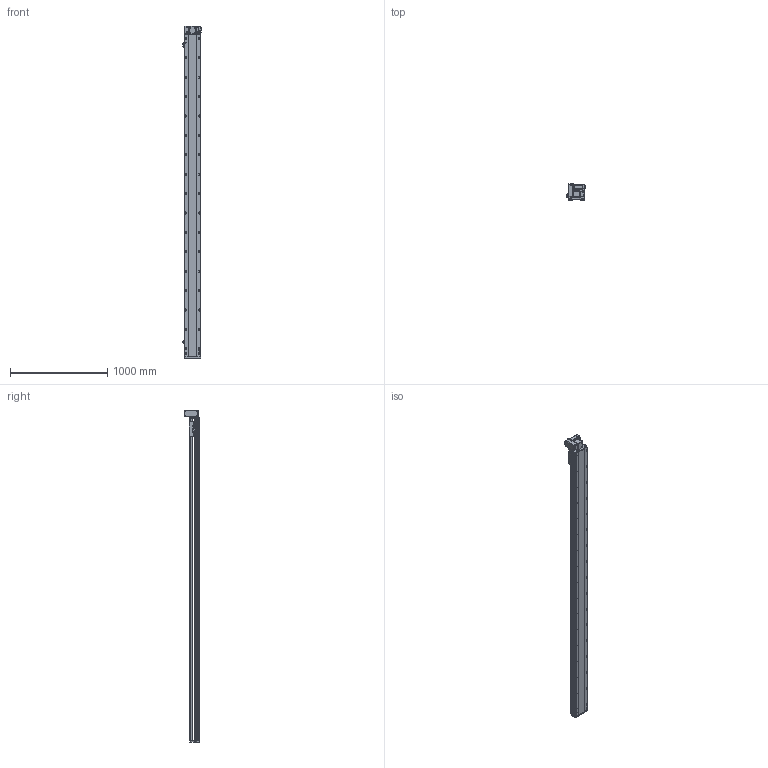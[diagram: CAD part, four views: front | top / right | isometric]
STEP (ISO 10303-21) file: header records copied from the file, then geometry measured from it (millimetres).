
FILE_DESCRIPTION (( 'STEP AP214' ), '1' );
FILE_NAME ('RTB17S-XX-3050-LW-M40-C4.STEP', '2025-12-11T07:21:19', ( '' ), ( '' ), 'SwSTEP 2.0', 'SolidWorks 2018', '' );
FILE_SCHEMA (( 'AUTOMOTIVE_DESIGN' ));
Length unit declared in the file: millimetre
Products named in the file (14): RTB14-L-018P^RTB17S-LW-々湍釱蚾饜-400W_RTB17S-XX-XX-LW-M40-C4; RTB17S-L-001耜醱啣^RTB17S-XX-XX-LW-M40-C4; RTH13-BL-012覜茼え俋离^RTB17S-XX-XX-LW-M40-C4; RTB14-L-005P--轴承塑胶压盖^RTB17S-LW-皮带座装配-400W_RTB17S-XX-XX-LW-M40-C4; RTB17S-L-004佪裝蹟譫蟀諉釱^RTB17S-XX-XX-LW-M40-C4; RTB17S-LW-々湍釱蚾饜-400W^RTB17S-XX-XX-LW-M40-C4; OMRON EE-SX672 传感器^RTB17S-XX-XX-LW-M40-C4; RTB17-R-011菁釱^RTB17S-XX-XX-LW-M40-C4; RTB17S-L-007奻裔^RTB17S-XX-XX-LW-M40-C4; 400W侜督萇儂^RTB17S-XX-XX-LW-M40-C4; RTB14-L-008-M20--萇儂啣^RTB17S-LW-々湍釱蚾饜-400W_RTB17S-XX-XX-LW-M40-C4; RTB14-L-017P^RTB17S-LW-々湍釱蚾饜-400W_RTB17S-XX-XX-LW-M40-C4; RTB17S-L-014-T20--々湍釱^RTB17S-LW-々湍釱蚾饜-400W_RTB17S-XX-XX-LW-M40-C4; RTB17S-XX-3050-LW-M40-C4
Assembly tree (16 placements, depth 3):
  RTB17S-XX-3050-LW-M40-C4
    RTB17-R-011菁釱^RTB17S-XX-XX-LW-M40-C4
    RTB17S-L-007奻裔^RTB17S-XX-XX-LW-M40-C4
    OMRON EE-SX672 传感器^RTB17S-XX-XX-LW-M40-C4  x3
    RTB17S-L-001耜醱啣^RTB17S-XX-XX-LW-M40-C4
    400W侜督萇儂^RTB17S-XX-XX-LW-M40-C4
    RTB17S-L-004佪裝蹟譫蟀諉釱^RTB17S-XX-XX-LW-M40-C4
    RTH13-BL-012覜茼え俋离^RTB17S-XX-XX-LW-M40-C4
    RTB17S-LW-々湍釱蚾饜-400W^RTB17S-XX-XX-LW-M40-C4
      RTB17S-L-014-T20--々湍釱^RTB17S-LW-々湍釱蚾饜-400W_RTB17S-XX-XX-LW-M40-C4
      RTB14-L-005P--轴承塑胶压盖^RTB17S-LW-皮带座装配-400W_RTB17S-XX-XX-LW-M40-C4
      RTB14-L-008-M20--萇儂啣^RTB17S-LW-々湍釱蚾饜-400W_RTB17S-XX-XX-LW-M40-C4
      RTB14-L-017P^RTB17S-LW-々湍釱蚾饜-400W_RTB17S-XX-XX-LW-M40-C4  x2
      RTB14-L-018P^RTB17S-LW-々湍釱蚾饜-400W_RTB17S-XX-XX-LW-M40-C4
Bounding box: 186 x 160.5 x 3422.5 mm (x, y, z)
Volume: 29086677.9 mm3; surface area: 3322910.8 mm2
Topology: 15 solids, 15 shells, 2381 faces, 6681 edges, 4365 vertices
Faces by surface type: plane 1090, cylinder 843, bspline 301, cone 139, torus 8
Entity records: 71081 total; most frequent: CARTESIAN_POINT 20286, ORIENTED_EDGE 10206, DIRECTION 9386, EDGE_CURVE 5103, VERTEX_POINT 3353, AXIS2_PLACEMENT_3D 3283, LINE 2820, VECTOR 2820
